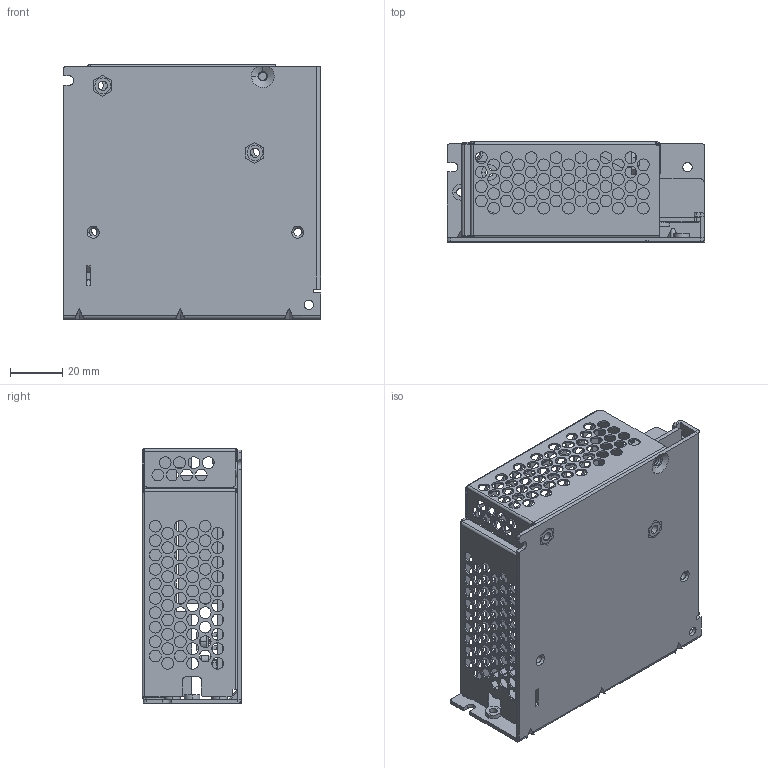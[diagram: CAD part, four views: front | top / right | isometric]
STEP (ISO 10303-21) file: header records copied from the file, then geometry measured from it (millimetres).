
FILE_DESCRIPTION((''),'2;1');
FILE_NAME('NEW_50W_ASM','2012-06-07T',('eric.yp.chen'),(''),'PRO/ENGINEER BY PARAMETRIC TECHNOLOGY CORPORATION, 2008310','PRO/ENGINEER BY PARAMETRIC TECHNOLOGY CORPORATION, 2008310','');
FILE_SCHEMA(('CONFIG_CONTROL_DESIGN'));
Products named in the file (14): 331609650101_CHASSIS; STUD_6_32_L7_; 331609650101_CHASSIS_ASM; NEW_COVER; PCB; CONN_5P_; SCREW-CON_; CONN_ASS5PIN_ASM; WARNING_LABEL; VR1_; LEG1_; VR_LEG__ASM; PMC_LED_HORIZONTAL; NEW_50W_ASM
Assembly tree (20 placements, depth 3):
  NEW_50W_ASM
    331609650101_CHASSIS_ASM
      331609650101_CHASSIS
      STUD_6_32_L7_  x2
    NEW_COVER
    PCB
    CONN_ASS5PIN_ASM
      CONN_5P_
      SCREW-CON_  x5
    WARNING_LABEL
    VR_LEG__ASM
      VR1_
      LEG1_  x3
    PMC_LED_HORIZONTAL
Bounding box: 98 x 38 x 97 mm (x, y, z)
Volume: 47687.9 mm3; surface area: 77109.1 mm2
Topology: 12 solids, 25 shells, 2213 faces, 6208 edges, 3974 vertices
Faces by surface type: plane 1027, cylinder 949, cone 204, bspline 23, torus 10
Entity records: 62844 total; most frequent: CARTESIAN_POINT 12303, DIRECTION 10646, ORIENTED_EDGE 10178, EDGE_CURVE 5134, AXIS2_PLACEMENT_3D 3763, VERTEX_POINT 3326, VECTOR 3120, LINE 3120
